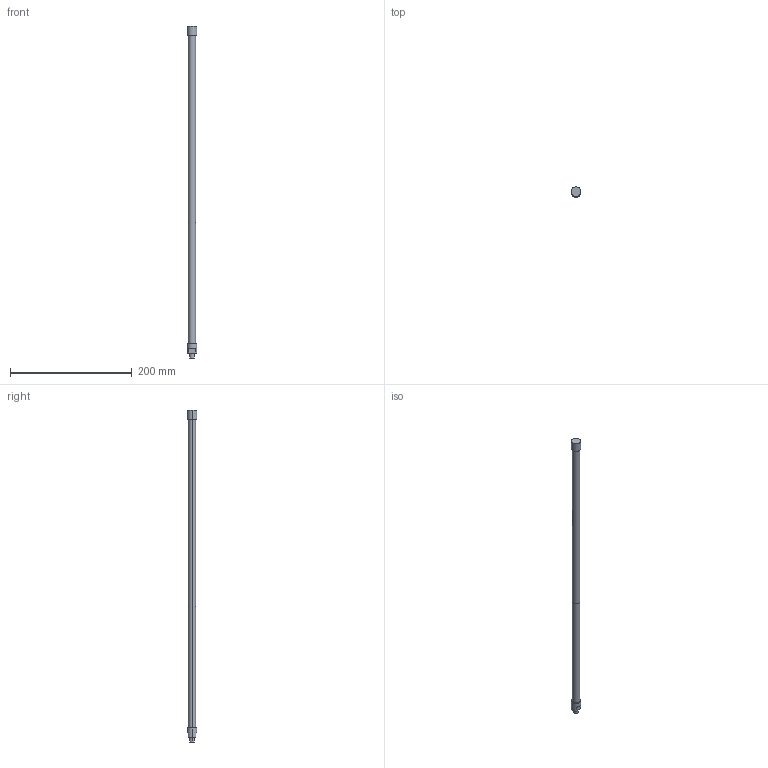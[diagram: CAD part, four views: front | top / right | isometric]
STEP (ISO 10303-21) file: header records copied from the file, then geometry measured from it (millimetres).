
FILE_DESCRIPTION(('STEP AP214'),'1');
FILE_NAME('C:/Users/Autocad/Desktop/L545-C360 MN.stp','2014-02-10T09:29:04',(' '),(' '),'Spatial InterOp 3D',' ',' ');
FILE_SCHEMA(('automotive_design'));
Length unit declared in the file: metre
Products named in the file (2): 1; 2
Bounding box: 16 x 16 x 545 mm (x, y, z)
Volume: 44498.2 mm3; surface area: 28757.4 mm2
Topology: 1 solids, 5 shells, 27 faces, 62 edges, 46 vertices
Faces by surface type: cylinder 14, plane 13
Entity records: 1056 total; most frequent: DIRECTION 158, CARTESIAN_POINT 137, ORIENTED_EDGE 112, AXIS2_PLACEMENT_3D 67, EDGE_CURVE 62, VERTEX_POINT 46, CIRCLE 38, EDGE_LOOP 32
